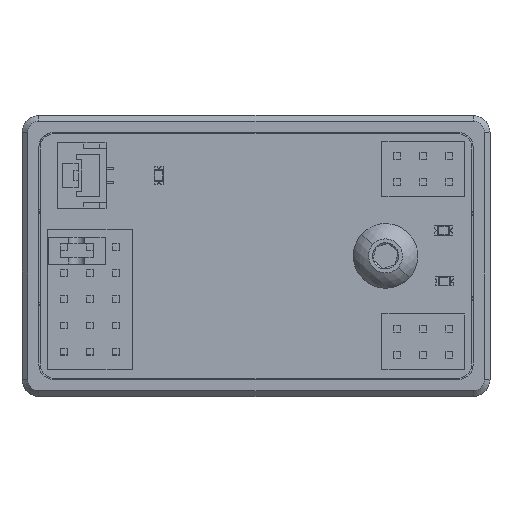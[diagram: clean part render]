
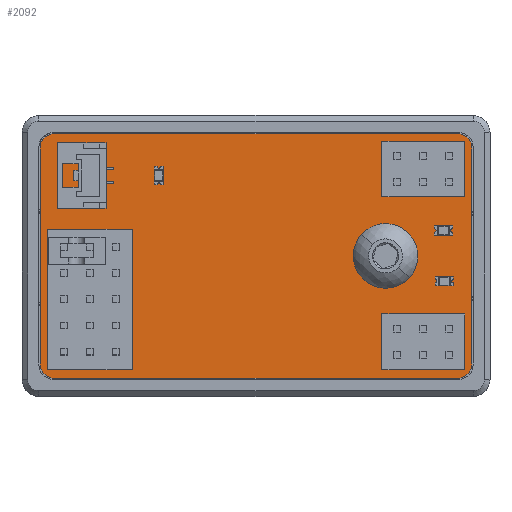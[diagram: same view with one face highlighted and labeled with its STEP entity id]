
A CAD part, top view. The second image highlights one B-rep face of the part: STEP entity #2092.
In plain terms, the highlighted planar face has unit normal (0, 0, 1).
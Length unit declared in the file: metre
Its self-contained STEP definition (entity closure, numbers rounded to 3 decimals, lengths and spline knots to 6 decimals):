
#35 = DIRECTION ( 'NONE',  ( -1., 0., 0. ) ) ;
#232 = VERTEX_POINT ( 'NONE', #14362 ) ;
#756 = FACE_OUTER_BOUND ( 'NONE', #2190, .T. ) ;
#893 = CARTESIAN_POINT ( 'NONE',  ( 0.00978, 0., 0.003875 ) ) ;
#2092 = ADVANCED_FACE ( 'NONE', ( #756, #15516 ), #3061, .T. ) ;
#2170 = CARTESIAN_POINT ( 'NONE',  ( 0.01143, 0., 0.003875 ) ) ;
#2190 = EDGE_LOOP ( 'NONE', ( #10592, #10166, #20980, #5021, #3868, #8999, #4845, #21695 ) ) ;
#2247 = CARTESIAN_POINT ( 'NONE',  ( -0.01778, -0.010795, 0.003875 ) ) ;
#2508 = EDGE_CURVE ( 'NONE', #5190, #21317, #11214, .T. ) ;
#2636 = VECTOR ( 'NONE', #21757, 1. ) ;
#2927 = EDGE_CURVE ( 'NONE', #21317, #232, #18857, .T. ) ;
#3061 = PLANE ( 'NONE',  #10561 ) ;
#3349 = VERTEX_POINT ( 'NONE', #18506 ) ;
#3371 = EDGE_CURVE ( 'NONE', #18370, #3349, #6145, .T. ) ;
#3489 = CARTESIAN_POINT ( 'NONE',  ( 0.01905, 0.009525, 0.003875 ) ) ;
#3760 = DIRECTION ( 'NONE',  ( 1., 0., 0. ) ) ;
#3868 = ORIENTED_EDGE ( 'NONE', *, *, #11682, .T. ) ;
#4292 = CARTESIAN_POINT ( 'NONE',  ( 0.01778, 0.009525, 0.003875 ) ) ;
#4505 = CARTESIAN_POINT ( 'NONE',  ( -0.01905, -0.009525, 0.003875 ) ) ;
#4829 = CARTESIAN_POINT ( 'NONE',  ( 0.01778, 0.010795, 0.003875 ) ) ;
#4845 = ORIENTED_EDGE ( 'NONE', *, *, #9530, .T. ) ;
#5021 = ORIENTED_EDGE ( 'NONE', *, *, #8110, .T. ) ;
#5190 = VERTEX_POINT ( 'NONE', #20632 ) ;
#5911 = DIRECTION ( 'NONE',  ( 0., 0., 1. ) ) ;
#5997 = EDGE_LOOP ( 'NONE', ( #7637, #19209 ) ) ;
#6145 = CIRCLE ( 'NONE', #12741, 0.00165 ) ;
#6605 = CIRCLE ( 'NONE', #18847, 0.00127 ) ;
#6677 = VERTEX_POINT ( 'NONE', #3489 ) ;
#6911 = VERTEX_POINT ( 'NONE', #17835 ) ;
#6967 = EDGE_CURVE ( 'NONE', #6677, #5190, #6605, .T. ) ;
#7225 = DIRECTION ( 'NONE',  ( 0., 0., 1. ) ) ;
#7637 = ORIENTED_EDGE ( 'NONE', *, *, #3371, .F. ) ;
#8110 = EDGE_CURVE ( 'NONE', #232, #18565, #17618, .T. ) ;
#8217 = DIRECTION ( 'NONE',  ( 0., 1., 0. ) ) ;
#8999 = ORIENTED_EDGE ( 'NONE', *, *, #10151, .T. ) ;
#9145 = LINE ( 'NONE', #18304, #14672 ) ;
#9530 = EDGE_CURVE ( 'NONE', #6911, #19911, #20101, .T. ) ;
#9617 = DIRECTION ( 'NONE',  ( 1., 0., 0. ) ) ;
#9750 = DIRECTION ( 'NONE',  ( 0., 0., 1. ) ) ;
#10151 = EDGE_CURVE ( 'NONE', #15316, #6911, #21386, .T. ) ;
#10166 = ORIENTED_EDGE ( 'NONE', *, *, #2508, .T. ) ;
#10455 = EDGE_CURVE ( 'NONE', #19911, #6677, #9145, .T. ) ;
#10561 = AXIS2_PLACEMENT_3D ( 'NONE', #18150, #9750, #9617 ) ;
#10592 = ORIENTED_EDGE ( 'NONE', *, *, #6967, .T. ) ;
#11214 = LINE ( 'NONE', #4829, #11475 ) ;
#11475 = VECTOR ( 'NONE', #35, 1. ) ;
#11610 = CARTESIAN_POINT ( 'NONE',  ( -0.01778, -0.009525, 0.003875 ) ) ;
#11682 = EDGE_CURVE ( 'NONE', #18565, #15316, #12446, .T. ) ;
#12446 = CIRCLE ( 'NONE', #21208, 0.00127 ) ;
#12689 = DIRECTION ( 'NONE',  ( 1., 0., 0. ) ) ;
#12741 = AXIS2_PLACEMENT_3D ( 'NONE', #13782, #18948, #3760 ) ;
#13134 = VECTOR ( 'NONE', #18723, 1. ) ;
#13136 = CARTESIAN_POINT ( 'NONE',  ( 0.01778, -0.009525, 0.003875 ) ) ;
#13316 = DIRECTION ( 'NONE',  ( -1., 0., 0. ) ) ;
#13697 = AXIS2_PLACEMENT_3D ( 'NONE', #2170, #7225, #18880 ) ;
#13782 = CARTESIAN_POINT ( 'NONE',  ( 0.01143, 0., 0.003875 ) ) ;
#14362 = CARTESIAN_POINT ( 'NONE',  ( -0.01905, 0.009525, 0.003875 ) ) ;
#14672 = VECTOR ( 'NONE', #8217, 1. ) ;
#14850 = DIRECTION ( 'NONE',  ( 0., 0., 1. ) ) ;
#15316 = VERTEX_POINT ( 'NONE', #2247 ) ;
#15516 = FACE_BOUND ( 'NONE', #5997, .T. ) ;
#16426 = CARTESIAN_POINT ( 'NONE',  ( 0.01905, -0.009525, 0.003875 ) ) ;
#16545 = CIRCLE ( 'NONE', #13697, 0.00165 ) ;
#16647 = CARTESIAN_POINT ( 'NONE',  ( -0.01778, 0.010795, 0.003875 ) ) ;
#16846 = CARTESIAN_POINT ( 'NONE',  ( -0.01905, -0.009525, 0.003875 ) ) ;
#17092 = AXIS2_PLACEMENT_3D ( 'NONE', #21275, #19645, #12689 ) ;
#17367 = AXIS2_PLACEMENT_3D ( 'NONE', #13136, #14850, #21364 ) ;
#17618 = LINE ( 'NONE', #16846, #13134 ) ;
#17762 = DIRECTION ( 'NONE',  ( 1., 0., 0. ) ) ;
#17835 = CARTESIAN_POINT ( 'NONE',  ( 0.01778, -0.010795, 0.003875 ) ) ;
#18150 = CARTESIAN_POINT ( 'NONE',  ( 0.01778, 0.009525, 0.003875 ) ) ;
#18304 = CARTESIAN_POINT ( 'NONE',  ( 0.01905, -0.009525, 0.003875 ) ) ;
#18315 = EDGE_CURVE ( 'NONE', #3349, #18370, #16545, .T. ) ;
#18370 = VERTEX_POINT ( 'NONE', #893 ) ;
#18506 = CARTESIAN_POINT ( 'NONE',  ( 0.01308, 0., 0.003875 ) ) ;
#18565 = VERTEX_POINT ( 'NONE', #4505 ) ;
#18723 = DIRECTION ( 'NONE',  ( 0., -1., 0. ) ) ;
#18847 = AXIS2_PLACEMENT_3D ( 'NONE', #4292, #5911, #17762 ) ;
#18857 = CIRCLE ( 'NONE', #17092, 0.00127 ) ;
#18880 = DIRECTION ( 'NONE',  ( 1., 0., 0. ) ) ;
#18948 = DIRECTION ( 'NONE',  ( 0., 0., 1. ) ) ;
#19209 = ORIENTED_EDGE ( 'NONE', *, *, #18315, .F. ) ;
#19645 = DIRECTION ( 'NONE',  ( 0., 0., 1. ) ) ;
#19911 = VERTEX_POINT ( 'NONE', #16426 ) ;
#20054 = CARTESIAN_POINT ( 'NONE',  ( 0.01778, -0.010795, 0.003875 ) ) ;
#20101 = CIRCLE ( 'NONE', #17367, 0.00127 ) ;
#20632 = CARTESIAN_POINT ( 'NONE',  ( 0.01778, 0.010795, 0.003875 ) ) ;
#20980 = ORIENTED_EDGE ( 'NONE', *, *, #2927, .T. ) ;
#21208 = AXIS2_PLACEMENT_3D ( 'NONE', #11610, #21834, #13316 ) ;
#21275 = CARTESIAN_POINT ( 'NONE',  ( -0.01778, 0.009525, 0.003875 ) ) ;
#21317 = VERTEX_POINT ( 'NONE', #16647 ) ;
#21364 = DIRECTION ( 'NONE',  ( 1., 0., 0. ) ) ;
#21386 = LINE ( 'NONE', #20054, #2636 ) ;
#21695 = ORIENTED_EDGE ( 'NONE', *, *, #10455, .T. ) ;
#21757 = DIRECTION ( 'NONE',  ( 1., 0., 0. ) ) ;
#21834 = DIRECTION ( 'NONE',  ( 0., 0., 1. ) ) ;
